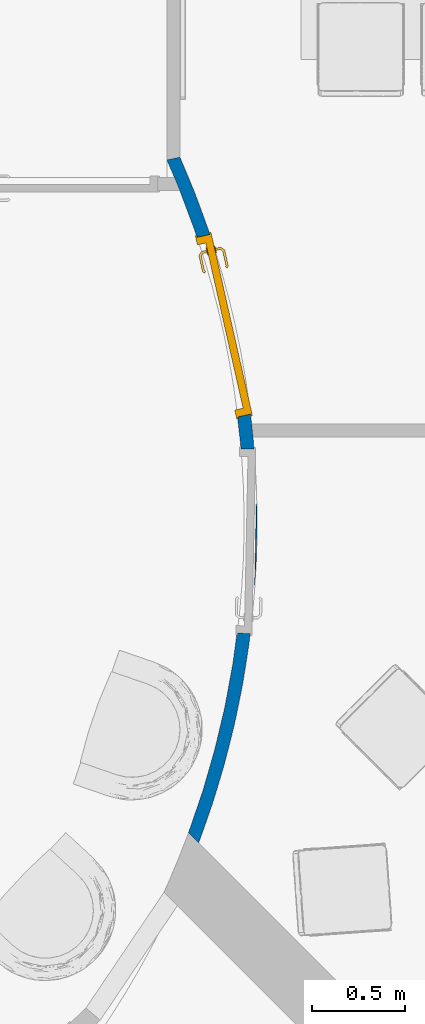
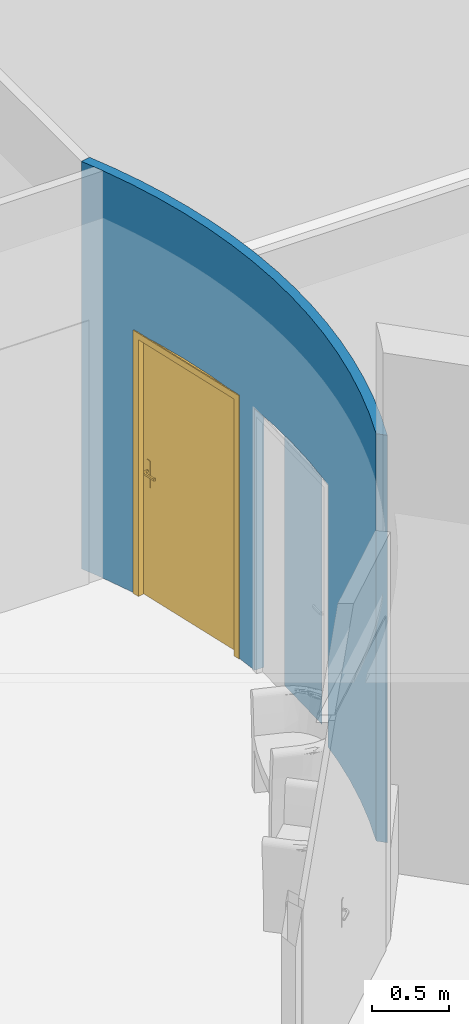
# One storey, part 56 of 137: 1 door, 1 wall, 2 openings.
"""IFC2X3 building model written with IfcOpenShell, lengths in centimetres."""

from ifc_helpers import new_model, entity, si_unit, converted_unit, derived_unit, direction, frame, frame_2d, origin, place, context, subcontext, project, spatial, polyline, rectangle, outline, extrude, faceted_brep, source, transform, mapped, material, material_list, layer, layer_set, layer_usage, type_object, type_shapes, element, fill, save


model = new_model("IFC2X3")

# Units and contexts
model_context = context("Model", 3, precision=0.001, world=origin(), true_north=direction((6.12303176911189e-17, 1.0)))
body_context = subcontext(model_context, "Body", "Model", "MODEL_VIEW")
ifc_project = project(units=[si_unit("LENGTHUNIT", "METRE", prefix="CENTI"), si_unit("AREAUNIT", "SQUARE_METRE"), si_unit("VOLUMEUNIT", "CUBIC_METRE"), converted_unit("PLANEANGLEUNIT", "DEGREE", entity("IfcRatioMeasure", 0.0174532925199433), si_unit("PLANEANGLEUNIT", "RADIAN"), dimensions=[0, 0, 0, 0, 0, 0, 0]), si_unit("MASSUNIT", "GRAM", prefix="KILO"), si_unit("TIMEUNIT", "SECOND"), si_unit("FREQUENCYUNIT", "HERTZ"), si_unit("THERMODYNAMICTEMPERATUREUNIT", "DEGREE_CELSIUS"), derived_unit("THERMALTRANSMITTANCEUNIT", [(si_unit("MASSUNIT", "GRAM", prefix="KILO"), 1), (si_unit("THERMODYNAMICTEMPERATUREUNIT", "KELVIN"), -1), (si_unit("TIMEUNIT", "SECOND"), -3)]), derived_unit("VOLUMETRICFLOWRATEUNIT", [(si_unit("LENGTHUNIT", "METRE"), 3), (si_unit("TIMEUNIT", "SECOND"), -1)]), si_unit("ELECTRICCURRENTUNIT", "AMPERE"), si_unit("ELECTRICVOLTAGEUNIT", "VOLT"), si_unit("POWERUNIT", "WATT"), si_unit("FORCEUNIT", "NEWTON", prefix="KILO"), si_unit("ILLUMINANCEUNIT", "LUX"), si_unit("LUMINOUSFLUXUNIT", "LUMEN"), si_unit("LUMINOUSINTENSITYUNIT", "CANDELA"), derived_unit("USERDEFINED", [(si_unit("MASSUNIT", "GRAM", prefix="KILO"), -1), (si_unit("LENGTHUNIT", "METRE"), -2), (si_unit("TIMEUNIT", "SECOND"), 3), (si_unit("LUMINOUSFLUXUNIT", "LUMEN"), 1)]), derived_unit("LINEARVELOCITYUNIT", [(si_unit("LENGTHUNIT", "METRE"), 1), (si_unit("TIMEUNIT", "SECOND"), -1)]), si_unit("PRESSUREUNIT", "PASCAL"), derived_unit("USERDEFINED", [(si_unit("LENGTHUNIT", "METRE"), -2), (si_unit("MASSUNIT", "GRAM", prefix="KILO"), 1), (si_unit("TIMEUNIT", "SECOND"), -2)])], contexts=[model_context])

# Site, building, storey
site_placement = place(None, frame((8.62739174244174, -249.285249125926, 0.0)))
site = spatial("IfcSite", under=ifc_project, at=site_placement, Name="Default", CompositionType="ELEMENT")
building_placement = place(site_placement, origin())
building = spatial("IfcBuilding", under=site, at=building_placement, CompositionType="ELEMENT")
storey_placement = place(building_placement, origin())
storey = spatial("IfcBuildingStorey", under=building, at=storey_placement, Name="RDC", CompositionType="ELEMENT", Elevation=-8.82465566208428e-11)

# Wall, openings, door
ifc_material_1 = material(Name="Plâtre EXISTANT")
ifc_layer = layer(ifc_material_1, 7.0)
ifc_layer_set = layer_set([ifc_layer], Name="Mur de base:PLA EXISTANT 7")
ifc_layer_usage = layer_usage(ifc_layer_set, "AXIS2", "POSITIVE", -3.5)
wall_type = type_object("IfcWallType", Name="Mur de base:PLA EXISTANT 7", PredefinedType="STANDARD", material=ifc_layer_set)
wall_placement = place(storey_placement, frame((3485.10193499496, 949.322407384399, 0.0)))
wall = element("IfcWallStandardCase", 1, at=wall_placement, inside=storey, type_object=wall_type, material=ifc_layer_usage, Name="Mur de base:PLA EXISTANT 7", ObjectType="Mur de base:PLA EXISTANT 7", context=body_context, shape_type="SweptSolid", body=[
    extrude(outline(polyline([(13.8800421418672, -368.419348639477), (21.2501089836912, -347.485910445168), (27.6574641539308, -326.238222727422), (33.0888253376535, -304.720382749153), (37.5328806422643, -282.977232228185), (40.9803869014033, -261.054035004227), (43.4241738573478, -238.996428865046), (44.8591590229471, -216.850330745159), (45.2823582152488, -194.66184134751), (44.6928917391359, -172.477149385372), (43.0919511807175, -150.342677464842), (42.3735633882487, -143.341451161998), (39.5838551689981, -122.229995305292), (35.8725512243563, -101.260581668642), (31.2468482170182, -80.4737322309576), (25.7155992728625, -59.9092492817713), (19.2893847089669, -39.6065115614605), (11.9805365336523, -19.6045136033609), (3.80289281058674, 0.0587776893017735), (-3.1971071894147, -1.42425616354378), (0.869883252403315, -10.8227096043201), (3.7454516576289, -17.821420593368), (11.9793480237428, -39.8710689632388), (19.1215788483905, -62.3005511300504), (25.1540810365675, -85.0535984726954), (30.0623112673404, -108.075348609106), (33.8344360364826, -131.310291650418), (36.4613601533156, -154.702403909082), (37.9367486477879, -178.195282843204), (38.2570420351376, -201.732282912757), (37.421464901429, -225.256652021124), (35.4320277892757, -248.711668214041), (32.2935223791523, -272.040776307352), (28.0135099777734, -295.187724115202), (22.6023033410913, -318.096697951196), (16.0729527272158, -340.712422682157), (8.44116027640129, -362.980466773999), (13.8800421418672, -368.419348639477)])), origin(), (0.0, 0.0, 1.0), 322.000000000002),
])
opening_1_placement = place(wall_placement, frame((51.7674726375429, -135.781967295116, 0.0)))
opening_1 = element("IfcOpeningElement", 2, at=opening_1_placement, cuts=wall, Name="Simple(R)-bois_MU:93x204cm_MU:1", ObjectType="Opening", context=body_context, shape_type="SweptSolid", body=[
    extrude(rectangle(XDim=206.999999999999, YDim=98.9999999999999, at=frame_2d((103.499999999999, 49.5), x_axis=(1.0, 0.0))), frame((0.0, 0.0, 0.0), z_axis=(-0.975369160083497, -0.220578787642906, 0.0), x_axis=(0.0, 0.0, 1.0)), (0.0, 0.0, 1.0), 19.0113771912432),
])
opening_2_placement = place(wall_placement, frame((26.4162043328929, -156.530129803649, 0.0)))
element("IfcOpeningElement", 3, at=opening_2_placement, cuts=wall, Name="Simple(R)-bois_MU:93x204cm_MU:1", ObjectType="Opening", context=body_context, shape_type="SweptSolid", body=[
    extrude(rectangle(XDim=206.999999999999, YDim=98.9999999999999, at=frame_2d((103.499999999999, 49.5), x_axis=(1.0, 0.0))), frame((0.0, 0.0, 0.0), z_axis=(0.999791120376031, -0.0204380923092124, 0.0), x_axis=(0.0, 0.0, 1.0)), (0.0, 0.0, 1.0), 19.0113771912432),
])
ifc_material_2 = material(Name="Porte-Poignée_MU")
ifc_material_3 = material(Name="Porte-Cadre_MU")
ifc_material_4 = material(Name="Porte Panneau_MU")
ifc_material_list_1 = material_list([ifc_material_2, ifc_material_3, ifc_material_4])
ifc_material_list_2 = material_list([ifc_material_2, ifc_material_3, ifc_material_4])
door_style = type_object("IfcDoorStyle", Name="93x204cm_MU", ConstructionType="NOTDEFINED", OperationType="SINGLE_SWING_LEFT", ParameterTakesPrecedence=False, Sizeable=False, material=ifc_material_list_2)
shared_shape = source(origin(), body_context, "Body", "Brep", [
    faceted_brep([(91.7025298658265, 3.69999999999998, 100.778044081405), (91.2974701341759, 3.69999999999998, 100.778044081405), (90.8999999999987, 3.69999999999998, 100.699999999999), (90.9000000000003, 3.69999999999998, 99.3000000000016), (91.2974701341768, 3.69999999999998, 99.2219559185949), (91.7025298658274, 3.69999999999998, 99.2219559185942), (92.1000000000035, 3.69999999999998, 99.2999999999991), (92.1000000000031, 3.69999999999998, 100.699999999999), (90.8999999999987, 5.94852045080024, 100.699999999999), (90.8999999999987, 5.94852045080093, 99.3000000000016), (91.2974701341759, 6.1131579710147, 100.778044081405), (91.7025298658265, 6.2809392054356, 100.778044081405), (90.0838906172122, 7.89957845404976, 100.778044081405), (89.9161093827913, 7.49451872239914, 100.778044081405), (81.5793122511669, 7.49451872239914, 100.778044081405), (81.4115310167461, 7.89957845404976, 100.778044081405), (80.6451046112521, 7.13315204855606, 100.778044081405), (80.9315250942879, 6.84673156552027, 100.778044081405), (92.1000000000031, 6.44557672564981, 100.699999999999), (92.1000000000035, 6.44557672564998, 99.2999999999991), (91.7025298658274, 6.28093920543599, 99.2219559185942), (91.2974701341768, 6.11315797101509, 99.2219559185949), (89.9161093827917, 7.49451872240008, 99.2219559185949), (90.0838906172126, 7.8995784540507, 99.2219559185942), (81.4115310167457, 7.8995784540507, 99.2219559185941), (81.5793122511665, 7.49451872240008, 99.2219559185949), (80.9315250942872, 6.84673156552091, 99.2219559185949), (80.6451046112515, 7.13315204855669, 99.2219559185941), (89.7514718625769, 7.09704858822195, 100.699999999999), (89.7514718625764, 7.09704858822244, 99.3000000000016), (90.2485281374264, 8.29704858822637, 100.699999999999), (90.2485281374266, 8.29704858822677, 99.2999999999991), (85.7477108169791, 7.09704858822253, 100.699999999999), (81.7439497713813, 7.09704858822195, 100.699999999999), (81.7439497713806, 7.09704858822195, 99.3000000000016), (85.7477108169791, 7.09704858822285, 99.3000000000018), (85.747710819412, 7.71249275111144, 100.787811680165), (85.2399422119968, 8.29704858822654, 100.699999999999), (81.2468934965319, 8.29704858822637, 100.699999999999), (86.2554791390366, 8.29704858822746, 99.2999999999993), (81.2468934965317, 8.29704858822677, 99.2999999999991), (85.7477107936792, 7.71249274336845, 99.2121883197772), (80.3640507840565, 7.41420587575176, 100.699999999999), (80.364050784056, 7.41420587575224, 99.2999999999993), (81.2125789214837, 6.5656777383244, 99.3000000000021), (81.2125789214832, 6.56567773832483, 100.699999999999)], [[[0, 1, 2, 3, 4, 5, 6, 7]], [[8, 9, 3, 2]], [[1, 10, 8, 2]], [[1, 0, 11, 12, 13, 10]], [[14, 15, 16, 17]], [[7, 18, 11, 0]], [[18, 7, 6, 19]], [[6, 5, 20, 19]], [[5, 4, 21, 22, 23, 20]], [[24, 25, 26, 27]], [[4, 3, 9, 21]], [[28, 29, 9, 8]], [[8, 10, 13, 28]], [[18, 30, 12, 11]], [[31, 30, 18, 19]], [[19, 20, 23, 31]], [[21, 9, 29, 22]], [[29, 28, 32, 33, 34, 35]], [[36, 32, 13]], [[37, 38, 15]], [[37, 12, 30]], [[36, 12, 37]], [[14, 32, 36]], [[36, 15, 14]], [[28, 13, 32]], [[32, 14, 33]], [[12, 36, 13]], [[15, 36, 37]], [[30, 31, 39, 40, 38, 37]], [[23, 41, 39]], [[24, 39, 41]], [[39, 31, 23]], [[39, 24, 40]], [[22, 35, 41]], [[41, 23, 22]], [[41, 35, 25]], [[35, 22, 29]], [[34, 25, 35]], [[24, 41, 25]], [[17, 16, 42, 43, 27, 26, 44, 45]], [[45, 44, 34, 33]], [[33, 14, 17, 45]], [[15, 38, 42, 16]], [[43, 42, 38, 40]], [[24, 27, 43, 40]], [[34, 44, 26, 25]]]),
    faceted_brep([(91.2974701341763, -1.30000000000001, 100.778044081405), (91.7025298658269, -1.30000000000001, 100.778044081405), (92.1000000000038, -1.30000000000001, 100.699999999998), (92.1000000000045, -1.30000000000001, 99.2999999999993), (91.7025298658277, -1.30000000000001, 99.2219559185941), (91.2974701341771, -1.30000000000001, 99.2219559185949), (90.899999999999, -1.30000000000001, 99.3000000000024), (90.8999999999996, -1.30000000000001, 100.699999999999), (91.7025298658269, -3.90045754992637, 100.778044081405), (92.100000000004, -4.06509507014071, 100.699999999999), (91.2974701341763, -3.73267631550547, 100.778044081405), (89.9298602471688, -5.10028620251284, 100.778044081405), (90.0976414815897, -5.50534593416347, 100.778044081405), (81.4142453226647, -5.50534593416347, 100.778044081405), (81.5820265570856, -5.10028620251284, 100.778044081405), (80.9342394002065, -4.4524990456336, 100.778044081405), (80.6478189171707, -4.73891952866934, 100.778044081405), (90.8999999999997, -3.56803879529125, 100.699999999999), (90.899999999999, -3.56803879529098, 99.3000000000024), (91.2974701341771, -3.7326763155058, 99.2219559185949), (91.7025298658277, -3.9004575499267, 99.2219559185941), (90.09764148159, -5.50534593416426, 99.2219559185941), (89.9298602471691, -5.10028620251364, 99.2219559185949), (81.5820265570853, -5.10028620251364, 99.2219559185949), (81.4142453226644, -5.50534593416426, 99.2219559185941), (80.6478189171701, -4.73891952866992, 99.2219559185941), (80.9342394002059, -4.45249904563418, 99.2219559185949), (92.1000000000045, -4.06509507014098, 99.2999999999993), (90.2622790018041, -5.90281606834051, 100.699999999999), (89.7652227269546, -4.70281606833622, 100.699999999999), (89.7652227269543, -4.70281606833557, 99.3000000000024), (90.2622790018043, -5.90281606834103, 99.2999999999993), (85.7559433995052, -5.31828027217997, 100.787811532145), (86.2692302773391, -5.90281606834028, 100.699999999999), (81.2496078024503, -5.90281606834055, 100.699999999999), (85.7559434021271, -4.70281606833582, 100.699999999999), (81.7466640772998, -4.70281606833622, 100.699999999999), (85.7559436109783, -4.70281606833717, 99.3000000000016), (81.7466640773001, -4.70281606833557, 99.3000000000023), (85.7559434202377, -5.31828027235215, 99.2121884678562), (85.2426572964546, -5.90281606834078, 99.2999999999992), (81.2496078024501, -5.90281606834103, 99.2999999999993), (81.2152932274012, -4.17144521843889, 99.3000000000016), (80.366765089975, -5.01997335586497, 99.2999999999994), (80.3667650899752, -5.01997335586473, 100.699999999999), (81.2152932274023, -4.17144521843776, 100.699999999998)], [[[0, 1, 2, 3, 4, 5, 6, 7]], [[2, 1, 8, 9]], [[1, 0, 10, 11, 12, 8]], [[13, 14, 15, 16]], [[0, 7, 17, 10]], [[18, 17, 7, 6]], [[5, 19, 18, 6]], [[5, 4, 20, 21, 22, 19]], [[23, 24, 25, 26]], [[3, 27, 20, 4]], [[9, 27, 3, 2]], [[9, 8, 12, 28]], [[10, 17, 29, 11]], [[30, 29, 17, 18]], [[18, 19, 22, 30]], [[20, 27, 31, 21]], [[28, 31, 27, 9]], [[12, 32, 33]], [[13, 33, 32]], [[33, 28, 12]], [[33, 13, 34]], [[11, 35, 32]], [[32, 12, 11]], [[32, 35, 14]], [[35, 11, 29]], [[36, 14, 35]], [[13, 32, 14]], [[29, 30, 37, 38, 36, 35]], [[39, 37, 22]], [[40, 41, 24]], [[40, 21, 31]], [[39, 21, 40]], [[23, 37, 39]], [[39, 24, 23]], [[30, 22, 37]], [[37, 23, 38]], [[21, 39, 22]], [[24, 39, 40]], [[31, 28, 33, 34, 41, 40]], [[42, 26, 25, 43, 44, 16, 15, 45]], [[13, 16, 44, 34]], [[36, 45, 15, 14]], [[42, 45, 36, 38]], [[38, 23, 26, 42]], [[24, 41, 43, 25]], [[44, 43, 41, 34]]]),
    faceted_brep([(91.5000000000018, 3.19999999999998, 86.4641016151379), (92.5352761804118, 3.19999999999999, 86.6003983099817), (93.5000000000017, 3.19999999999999, 87.0), (93.5000000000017, 3.19999999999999, 108.0), (92.5352761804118, 3.19999999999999, 108.399601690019), (91.5000000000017, 3.19999999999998, 108.535898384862), (90.4647238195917, 3.19999999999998, 108.399601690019), (89.5000000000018, 3.19999999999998, 108.0), (89.5000000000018, 3.19999999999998, 87.0), (90.4647238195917, 3.19999999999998, 86.6003983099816), (91.5000000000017, 3.69999999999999, 108.535898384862), (92.5352761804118, 3.69999999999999, 108.399601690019), (93.5000000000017, 3.69999999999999, 108.0), (93.5000000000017, 3.69999999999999, 87.0), (92.5352761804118, 3.69999999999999, 86.6003983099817), (91.5000000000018, 3.69999999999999, 86.4641016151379), (90.4647238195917, 3.69999999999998, 86.6003983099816), (89.5000000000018, 3.69999999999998, 87.0), (89.5000000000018, 3.69999999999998, 108.0), (90.4647238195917, 3.69999999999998, 108.399601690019)], [[[0, 1, 2, 3, 4, 5, 6, 7, 8, 9]], [[10, 11, 12, 13, 14, 15, 16, 17, 18, 19]], [[6, 19, 18, 7]], [[5, 10, 19, 6]], [[4, 11, 10, 5]], [[4, 3, 12, 11]], [[12, 3, 2, 13]], [[1, 14, 13, 2]], [[0, 15, 14, 1]], [[9, 16, 15, 0]], [[9, 8, 17, 16]], [[17, 8, 7, 18]]]),
    faceted_brep([(91.5000000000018, -1.30000000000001, 86.4641016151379), (92.5352761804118, -1.30000000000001, 86.6003983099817), (93.5000000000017, -1.30000000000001, 87.0), (93.5000000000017, -1.30000000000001, 108.0), (92.5352761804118, -1.30000000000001, 108.399601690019), (91.5000000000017, -1.30000000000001, 108.535898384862), (90.4647238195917, -1.30000000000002, 108.399601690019), (89.5000000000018, -1.30000000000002, 108.0), (89.5000000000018, -1.30000000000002, 87.0), (90.4647238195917, -1.30000000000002, 86.6003983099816), (93.5000000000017, -0.800000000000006, 108.0), (93.5000000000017, -0.800000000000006, 87.0), (92.5352761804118, -0.800000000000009, 86.6003983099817), (91.5000000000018, -0.800000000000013, 86.4641016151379), (90.4647238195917, -0.800000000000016, 86.6003983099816), (89.5000000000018, -0.800000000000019, 87.0), (89.5000000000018, -0.800000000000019, 108.0), (90.4647238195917, -0.800000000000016, 108.399601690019), (91.5000000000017, -0.800000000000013, 108.535898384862), (92.5352761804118, -0.800000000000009, 108.399601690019)], [[[0, 1, 2, 3, 4, 5, 6, 7, 8, 9]], [[10, 11, 12, 13, 14, 15, 16, 17, 18, 19]], [[1, 12, 11, 2]], [[0, 13, 12, 1]], [[9, 14, 13, 0]], [[9, 8, 15, 14]], [[15, 8, 7, 16]], [[6, 17, 16, 7]], [[5, 18, 17, 6]], [[4, 19, 18, 5]], [[4, 3, 10, 19]], [[10, 3, 2, 11]]]),
    faceted_brep([(100.0, 0.0, 0.0), (101.0, 0.0, 0.0), (101.0, -0.799999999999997, 0.0), (97.0, -0.799999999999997, 0.0), (97.0, 3.2, 0.0), (96.0, 3.2, 0.0), (96.0, 7.80000000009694, 0.0), (101.0, 7.80000000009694, 0.0), (101.0, 7.0, 0.0), (100.0, 7.0, 0.0), (100.0, 7.0, 207.0), (100.0, 0.0, 207.0), (101.0, 7.0, 208.0), (0.0, 7.0, 208.0), (0.0, 7.0, 0.0), (1.0, 7.0, 0.0), (1.0, 7.0, 207.0), (101.0, 7.80000000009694, 208.0), (96.0, 7.80000000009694, 203.0), (5.0, 7.80000000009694, 203.0), (5.0, 7.80000000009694, 0.0), (0.0, 7.80000000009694, 0.0), (0.0, 7.80000000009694, 208.0), (96.0, 3.2, 203.0), (97.0, 3.2, 204.0), (4.0, 3.2, 204.0), (4.0, 3.2, 0.0), (5.0, 3.2, 0.0), (5.0, 3.2, 203.0), (97.0, -0.799999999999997, 204.0), (101.0, -0.799999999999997, 208.0), (0.0, -0.799999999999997, 208.0), (0.0, -0.799999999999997, 0.0), (4.0, -0.799999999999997, 0.0), (4.0, -0.799999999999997, 204.0), (101.0, 0.0, 208.0), (1.0, 0.0, 207.0), (1.0, 0.0, 0.0), (0.0, 0.0, 0.0), (0.0, 0.0, 208.0)], [[[0, 1, 2, 3, 4, 5, 6, 7, 8, 9]], [[9, 10, 11, 0]], [[8, 12, 13, 14, 15, 16, 10, 9]], [[7, 17, 12, 8]], [[6, 18, 19, 20, 21, 22, 17, 7]], [[5, 23, 18, 6]], [[4, 24, 25, 26, 27, 28, 23, 5]], [[3, 29, 24, 4]], [[2, 30, 31, 32, 33, 34, 29, 3]], [[1, 35, 30, 2]], [[0, 11, 36, 37, 38, 39, 35, 1]], [[16, 15, 37, 36]], [[37, 15, 14, 21, 20, 27, 26, 33, 32, 38]], [[22, 21, 14, 13]], [[28, 27, 20, 19]], [[34, 33, 26, 25]], [[39, 38, 32, 31]], [[10, 16, 36, 11]], [[17, 22, 13, 12]], [[23, 28, 19, 18]], [[29, 34, 25, 24]], [[35, 39, 31, 30]]]),
    faceted_brep([(97.0, -0.799999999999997, 204.0), (4.0, -0.799999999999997, 204.0), (4.0, -0.799999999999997, 0.0), (97.0, -0.799999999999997, 0.0), (97.0, 3.2, 204.0), (97.0, 3.2, 0.0), (4.0, 3.2, 0.0), (4.0, 3.2, 204.0)], [[[0, 1, 2, 3]], [[4, 5, 6, 7]], [[3, 5, 4, 0]], [[2, 6, 5, 3]], [[1, 7, 6, 2]], [[0, 4, 7, 1]]]),
])
type_shapes(door_style, [shared_shape])
door_placement = place(opening_1_placement, frame((-9.78494760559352, -3.23810923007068, 0.0), z_axis=(0.0, 0.0, 1.0), x_axis=(-0.220578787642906, 0.975369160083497, 0.0)))
door = element("IfcDoor", 4, at=door_placement, inside=storey, type_object=door_style, material=ifc_material_list_1, Name="Simple(R)-bois_MU:93x204cm_MU", ObjectType="93x204cm_MU", OverallHeight=206.999999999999, OverallWidth=98.9999999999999, context=body_context, shape_type="MappedRepresentation", body=[
    mapped(shared_shape, transform((0.0, 0.0, 0.0), scale=1.0)),
])
fill(opening_1, door)

save(model, "model.ifc")
